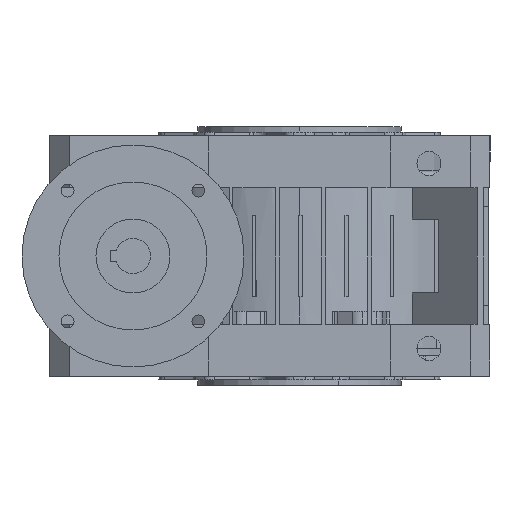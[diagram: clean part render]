
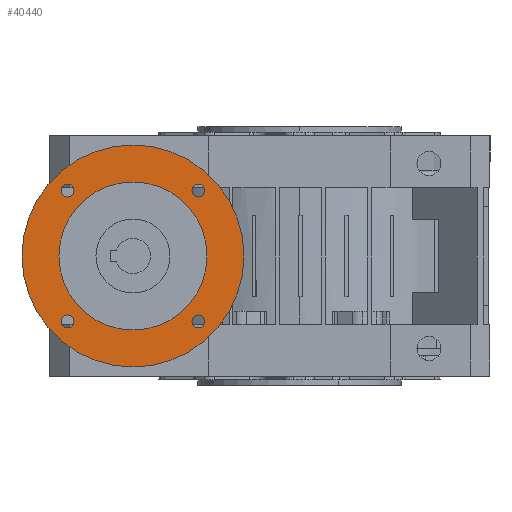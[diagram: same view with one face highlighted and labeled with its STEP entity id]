
A CAD part, left-side view. The second image highlights one B-rep face of the part: STEP entity #40440.
In plain terms, the highlighted planar face has unit normal (-1, 0, 0) as drawn and (1, 0, 0) by its records, which use the part's own axes.
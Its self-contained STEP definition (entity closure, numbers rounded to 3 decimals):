
#57 = CARTESIAN_POINT ( 'NONE',  ( 15., 0., 40. ) ) ;
#157 = CARTESIAN_POINT ( 'NONE',  ( 15., -35.355, 31.855 ) ) ;
#373 = ORIENTED_EDGE ( 'NONE', *, *, #27711, .F. ) ;
#439 = DIRECTION ( 'NONE',  ( 0., 0., 1. ) ) ;
#1614 = DIRECTION ( 'NONE',  ( 1., 0., 0. ) ) ;
#2234 = VERTEX_POINT ( 'NONE', #8626 ) ;
#2236 = CIRCLE ( 'NONE', #37670, 3.5 ) ;
#3064 = CARTESIAN_POINT ( 'NONE',  ( 15., 0., 0. ) ) ;
#3189 = CIRCLE ( 'NONE', #39376, 3.5 ) ;
#3211 = EDGE_LOOP ( 'NONE', ( #21525, #29286 ) ) ;
#3323 = ORIENTED_EDGE ( 'NONE', *, *, #39109, .F. ) ;
#3445 = CARTESIAN_POINT ( 'NONE',  ( 15., 35.355, -38.855 ) ) ;
#3797 = AXIS2_PLACEMENT_3D ( 'NONE', #16181, #7418, #439 ) ;
#3820 = DIRECTION ( 'NONE',  ( 0., 1., 0. ) ) ;
#3889 = FACE_BOUND ( 'NONE', #5418, .T. ) ;
#4129 = EDGE_CURVE ( 'NONE', #40763, #37912, #10857, .T. ) ;
#4243 = AXIS2_PLACEMENT_3D ( 'NONE', #20675, #1614, #30877 ) ;
#5418 = EDGE_LOOP ( 'NONE', ( #40400, #5588 ) ) ;
#5507 = VERTEX_POINT ( 'NONE', #18812 ) ;
#5531 = DIRECTION ( 'NONE',  ( 0., 0., 1. ) ) ;
#5588 = ORIENTED_EDGE ( 'NONE', *, *, #40071, .F. ) ;
#5645 = DIRECTION ( 'NONE',  ( 0., 0., 1. ) ) ;
#5740 = ORIENTED_EDGE ( 'NONE', *, *, #11228, .F. ) ;
#5803 = CARTESIAN_POINT ( 'NONE',  ( 15., -35.355, 35.355 ) ) ;
#6104 = DIRECTION ( 'NONE',  ( 0., 1., 0. ) ) ;
#6444 = CIRCLE ( 'NONE', #23948, 3.5 ) ;
#7418 = DIRECTION ( 'NONE',  ( -1., 0., 0. ) ) ;
#8146 = EDGE_CURVE ( 'NONE', #37912, #40763, #30397, .T. ) ;
#8317 = EDGE_CURVE ( 'NONE', #2234, #29952, #20966, .T. ) ;
#8440 = DIRECTION ( 'NONE',  ( 1., 0., 0. ) ) ;
#8626 = CARTESIAN_POINT ( 'NONE',  ( 15., -35.355, -38.855 ) ) ;
#9923 = EDGE_CURVE ( 'NONE', #5507, #39387, #12325, .T. ) ;
#10385 = ORIENTED_EDGE ( 'NONE', *, *, #8317, .F. ) ;
#10410 = EDGE_LOOP ( 'NONE', ( #32291, #35918 ) ) ;
#10521 = AXIS2_PLACEMENT_3D ( 'NONE', #18312, #40497, #5645 ) ;
#10563 = DIRECTION ( 'NONE',  ( 0., 0., -1. ) ) ;
#10829 = EDGE_LOOP ( 'NONE', ( #373, #3323 ) ) ;
#10857 = CIRCLE ( 'NONE', #10521, 40. ) ;
#10962 = CARTESIAN_POINT ( 'NONE',  ( 15., 35.355, -35.355 ) ) ;
#11228 = EDGE_CURVE ( 'NONE', #15158, #36917, #2236, .T. ) ;
#11426 = EDGE_LOOP ( 'NONE', ( #10385, #23518 ) ) ;
#11541 = DIRECTION ( 'NONE',  ( 1., 0., 0. ) ) ;
#12325 = CIRCLE ( 'NONE', #3797, 60. ) ;
#12477 = AXIS2_PLACEMENT_3D ( 'NONE', #40562, #34295, #6104 ) ;
#13127 = DIRECTION ( 'NONE',  ( 1., 0., 0. ) ) ;
#13273 = CARTESIAN_POINT ( 'NONE',  ( 15., 35.355, 35.355 ) ) ;
#13957 = DIRECTION ( 'NONE',  ( -1., 0., 0. ) ) ;
#13964 = CARTESIAN_POINT ( 'NONE',  ( 15., 35.355, 31.855 ) ) ;
#14332 = AXIS2_PLACEMENT_3D ( 'NONE', #20238, #13957, #23420 ) ;
#14897 = CIRCLE ( 'NONE', #4243, 3.5 ) ;
#15021 = DIRECTION ( 'NONE',  ( 1., 0., 0. ) ) ;
#15158 = VERTEX_POINT ( 'NONE', #3445 ) ;
#15704 = AXIS2_PLACEMENT_3D ( 'NONE', #16952, #29640, #38848 ) ;
#15830 = FACE_BOUND ( 'NONE', #11426, .T. ) ;
#16181 = CARTESIAN_POINT ( 'NONE',  ( 15., 0., 0. ) ) ;
#16714 = DIRECTION ( 'NONE',  ( -1., 0., 0. ) ) ;
#16952 = CARTESIAN_POINT ( 'NONE',  ( 15., 0., 0. ) ) ;
#17366 = VERTEX_POINT ( 'NONE', #157 ) ;
#18312 = CARTESIAN_POINT ( 'NONE',  ( 15., 0., 0. ) ) ;
#18812 = CARTESIAN_POINT ( 'NONE',  ( 15., 0., -60. ) ) ;
#19101 = CARTESIAN_POINT ( 'NONE',  ( 15., 0., -40. ) ) ;
#19404 = AXIS2_PLACEMENT_3D ( 'NONE', #13273, #13127, #3820 ) ;
#19812 = FACE_BOUND ( 'NONE', #29499, .T. ) ;
#19936 = CIRCLE ( 'NONE', #15704, 60. ) ;
#20043 = DIRECTION ( 'NONE',  ( 1., 0., 0. ) ) ;
#20238 = CARTESIAN_POINT ( 'NONE',  ( 15., 60., 0. ) ) ;
#20675 = CARTESIAN_POINT ( 'NONE',  ( 15., -35.355, 35.355 ) ) ;
#20780 = CARTESIAN_POINT ( 'NONE',  ( 15., 35.355, 38.855 ) ) ;
#20966 = CIRCLE ( 'NONE', #24280, 3.5 ) ;
#21525 = ORIENTED_EDGE ( 'NONE', *, *, #4129, .T. ) ;
#22345 = DIRECTION ( 'NONE',  ( 0., 0., 1. ) ) ;
#22868 = CARTESIAN_POINT ( 'NONE',  ( 15., -35.355, -31.855 ) ) ;
#23420 = DIRECTION ( 'NONE',  ( 0., 0., 1. ) ) ;
#23518 = ORIENTED_EDGE ( 'NONE', *, *, #28658, .F. ) ;
#23658 = VERTEX_POINT ( 'NONE', #13964 ) ;
#23923 = CARTESIAN_POINT ( 'NONE',  ( 15., -35.355, -35.355 ) ) ;
#23948 = AXIS2_PLACEMENT_3D ( 'NONE', #5803, #8440, #5531 ) ;
#24091 = VERTEX_POINT ( 'NONE', #28227 ) ;
#24280 = AXIS2_PLACEMENT_3D ( 'NONE', #23923, #11541, #40009 ) ;
#24320 = DIRECTION ( 'NONE',  ( 0., -1., 0. ) ) ;
#24747 = AXIS2_PLACEMENT_3D ( 'NONE', #27968, #37569, #34235 ) ;
#25764 = FACE_BOUND ( 'NONE', #3211, .T. ) ;
#27711 = EDGE_CURVE ( 'NONE', #23658, #37507, #31541, .T. ) ;
#27968 = CARTESIAN_POINT ( 'NONE',  ( 15., 35.355, -35.355 ) ) ;
#28198 = FACE_BOUND ( 'NONE', #10829, .T. ) ;
#28227 = CARTESIAN_POINT ( 'NONE',  ( 15., -35.355, 38.855 ) ) ;
#28658 = EDGE_CURVE ( 'NONE', #29952, #2234, #3189, .T. ) ;
#29286 = ORIENTED_EDGE ( 'NONE', *, *, #8146, .T. ) ;
#29386 = CIRCLE ( 'NONE', #19404, 3.5 ) ;
#29499 = EDGE_LOOP ( 'NONE', ( #5740, #38236 ) ) ;
#29640 = DIRECTION ( 'NONE',  ( -1., 0., 0. ) ) ;
#29952 = VERTEX_POINT ( 'NONE', #22868 ) ;
#30061 = AXIS2_PLACEMENT_3D ( 'NONE', #3064, #16714, #22345 ) ;
#30397 = CIRCLE ( 'NONE', #30061, 40. ) ;
#30877 = DIRECTION ( 'NONE',  ( 0., 0., 1. ) ) ;
#31541 = CIRCLE ( 'NONE', #12477, 3.5 ) ;
#32291 = ORIENTED_EDGE ( 'NONE', *, *, #32459, .F. ) ;
#32459 = EDGE_CURVE ( 'NONE', #39387, #5507, #19936, .T. ) ;
#32593 = EDGE_CURVE ( 'NONE', #17366, #24091, #14897, .T. ) ;
#32664 = EDGE_CURVE ( 'NONE', #36917, #15158, #38739, .T. ) ;
#32891 = CARTESIAN_POINT ( 'NONE',  ( 15., 35.355, -31.855 ) ) ;
#34235 = DIRECTION ( 'NONE',  ( 0., 0., -1. ) ) ;
#34295 = DIRECTION ( 'NONE',  ( 1., 0., 0. ) ) ;
#35918 = ORIENTED_EDGE ( 'NONE', *, *, #9923, .F. ) ;
#36917 = VERTEX_POINT ( 'NONE', #32891 ) ;
#37507 = VERTEX_POINT ( 'NONE', #20780 ) ;
#37569 = DIRECTION ( 'NONE',  ( 1., 0., 0. ) ) ;
#37670 = AXIS2_PLACEMENT_3D ( 'NONE', #10962, #20043, #10563 ) ;
#37912 = VERTEX_POINT ( 'NONE', #19101 ) ;
#38236 = ORIENTED_EDGE ( 'NONE', *, *, #32664, .F. ) ;
#38739 = CIRCLE ( 'NONE', #24747, 3.5 ) ;
#38848 = DIRECTION ( 'NONE',  ( 0., 0., 1. ) ) ;
#39109 = EDGE_CURVE ( 'NONE', #37507, #23658, #29386, .T. ) ;
#39368 = PLANE ( 'NONE',  #14332 ) ;
#39376 = AXIS2_PLACEMENT_3D ( 'NONE', #40122, #15021, #24320 ) ;
#39387 = VERTEX_POINT ( 'NONE', #40548 ) ;
#40009 = DIRECTION ( 'NONE',  ( 0., -1., 0. ) ) ;
#40071 = EDGE_CURVE ( 'NONE', #24091, #17366, #6444, .T. ) ;
#40122 = CARTESIAN_POINT ( 'NONE',  ( 15., -35.355, -35.355 ) ) ;
#40400 = ORIENTED_EDGE ( 'NONE', *, *, #32593, .F. ) ;
#40440 = ADVANCED_FACE ( 'NONE', ( #28198, #3889, #15830, #19812, #41134, #25764 ), #39368, .F. ) ;
#40497 = DIRECTION ( 'NONE',  ( -1., 0., 0. ) ) ;
#40548 = CARTESIAN_POINT ( 'NONE',  ( 15., 0., 60. ) ) ;
#40562 = CARTESIAN_POINT ( 'NONE',  ( 15., 35.355, 35.355 ) ) ;
#40763 = VERTEX_POINT ( 'NONE', #57 ) ;
#41134 = FACE_OUTER_BOUND ( 'NONE', #10410, .T. ) ;
